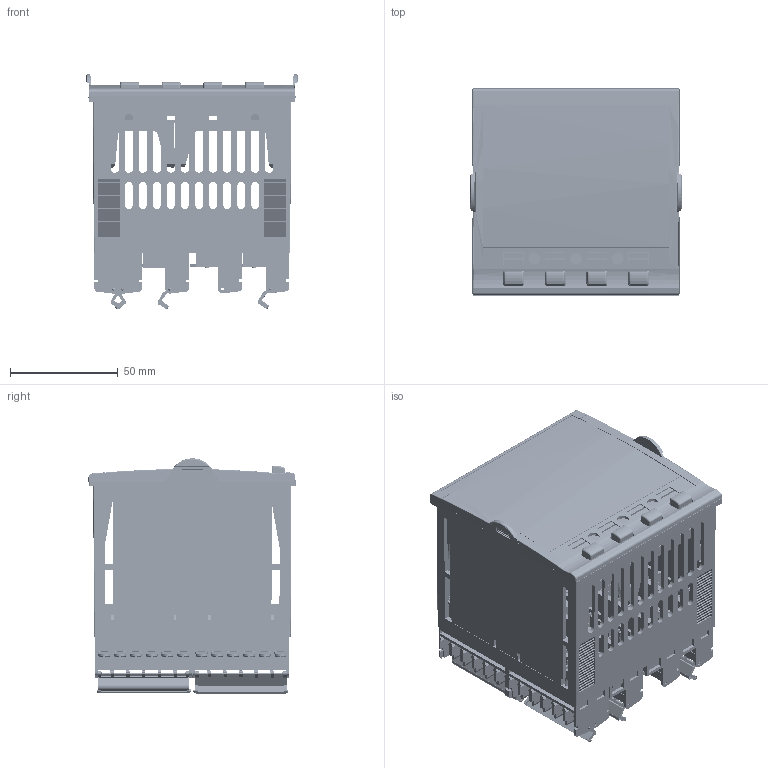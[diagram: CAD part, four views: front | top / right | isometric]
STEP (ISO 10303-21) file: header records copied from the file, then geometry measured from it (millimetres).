
FILE_DESCRIPTION((''),'2;1');
FILE_NAME('2204_IGESFILE','2012-02-14T',('chrisloe'),(''),'PRO/ENGINEER BY PARAMETRIC TECHNOLOGY CORPORATION, 2010180','PRO/ENGINEER BY PARAMETRIC TECHNOLOGY CORPORATION, 2010180','');
FILE_SCHEMA(('CONFIG_CONTROL_DESIGN'));
Length unit declared in the file: millimetre
Products named in the file (1): 2204_IGESFILE
Bounding box: 97.9 x 96.14 x 109.04 mm (x, y, z)
Volume: 129626 mm3; surface area: 241887.6 mm2
Topology: 5 solids, 130 shells, 19263 faces, 52664 edges, 33517 vertices
Faces by surface type: plane 15319, cylinder 3154, cone 418, bspline 198, torus 166, sphere 8
Entity records: 618140 total; most frequent: CARTESIAN_POINT 137363, ORIENTED_EDGE 104993, DIRECTION 92030, EDGE_CURVE 52596, VECTOR 40980, LINE 40980, VERTEX_POINT 33515, AXIS2_PLACEMENT_3D 25525
